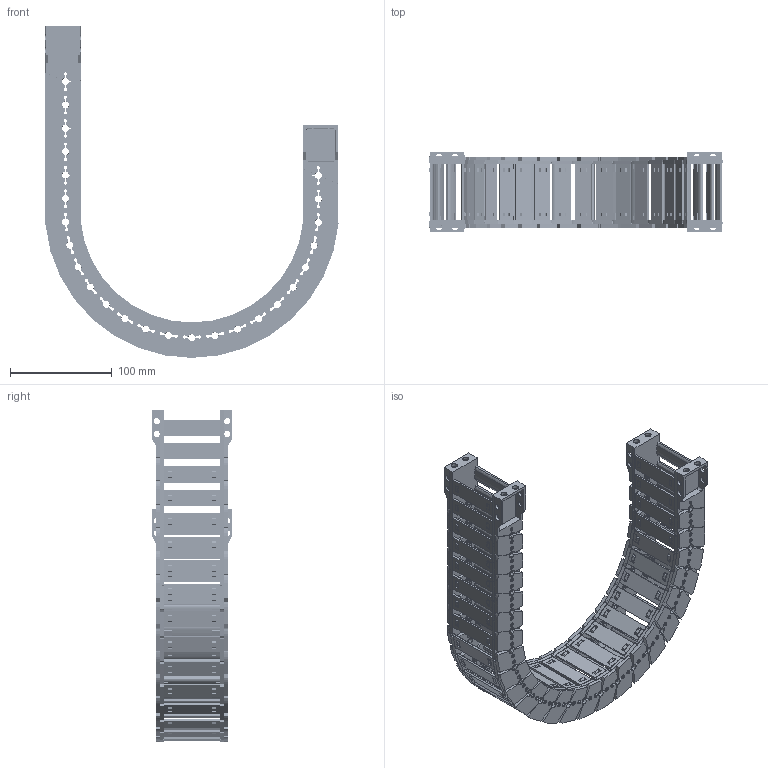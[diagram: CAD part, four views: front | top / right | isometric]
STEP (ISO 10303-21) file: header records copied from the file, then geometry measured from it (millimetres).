
FILE_DESCRIPTION(/* description */ (''),/* implementation_level */ '2;1');
FILE_NAME(/* name */ 'JY28-55-R125.stp',/* time_stamp */ '2026-06-03T14:27:39+08:00',/* author */ (''),/* organization */ (''),/* preprocessor_version */ 'ST-DEVELOPER v19.4',/* originating_system */ 'SIEMENS PLM Software NX2306.5001',/* authorisation */ '');
FILE_SCHEMA (('AP203_CONFIGURATION_CONTROLLED_3D_DESIGN_OF_MECHANICAL_PARTS_AND_ASSEMBLIES_MIM_LF { 1 0 10303 403 2 1 2}'));
Products named in the file (1): _model1_objects
Bounding box: 287.57 x 79 x 325.62 mm (x, y, z)
Volume: 427980.7 mm3; surface area: 311755.3 mm2
Topology: 98 solids, 98 shells, 8138 faces, 23150 edges, 15130 vertices
Faces by surface type: plane 5330, cone 1480, cylinder 1278, bspline 48, torus 2
Full cylindrical faces by diameter (mm): 6 x24
Entity records: 275371 total; most frequent: CARTESIAN_POINT 61217, ORIENTED_EDGE 46208, DIRECTION 43382, EDGE_CURVE 23104, LINE 15292, VECTOR 15292, VERTEX_POINT 15108, AXIS2_PLACEMENT_3D 14045
